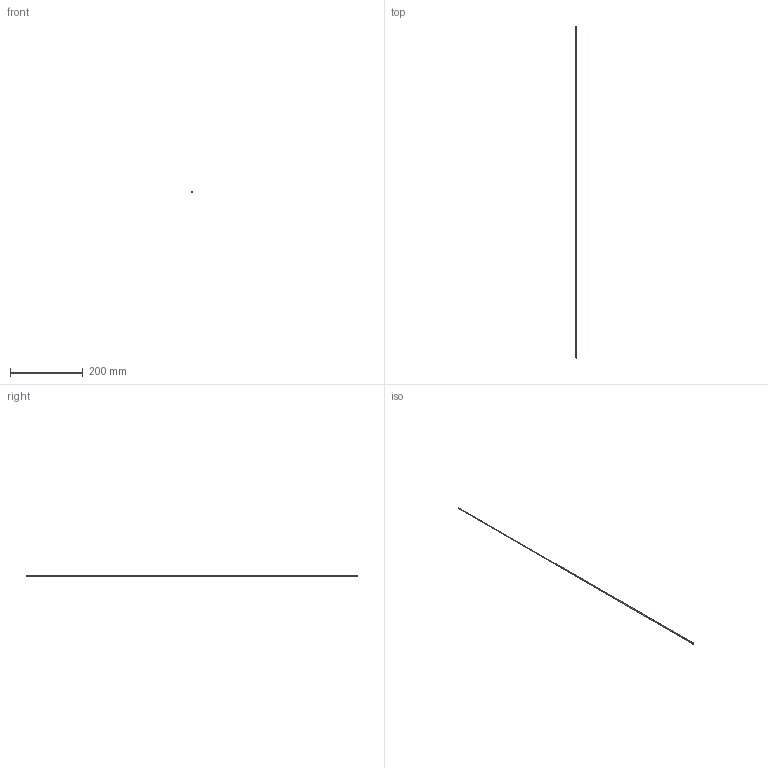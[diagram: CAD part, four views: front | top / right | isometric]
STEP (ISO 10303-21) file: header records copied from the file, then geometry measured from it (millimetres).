
FILE_DESCRIPTION(/* description */ (''),/* implementation_level */ '2;1');
FILE_NAME(/* name */ 'C:/Users/drich/Desktop/JHF090T-36 v1.step',/* time_stamp */ '2020-01-02T20:06:41-06:00',/* author */ (''),/* organization */ (''),/* preprocessor_version */ 'ST-DEVELOPER v18',/* originating_system */ 'Autodesk Translation Framework v8.12.0.6',/* authorisation */ '');
FILE_SCHEMA (('AUTOMOTIVE_DESIGN { 1 0 10303 214 3 1 1 }'));
Length unit declared in the file: inch
Products named in the file (1): JHF090T-36
Bounding box: 4.8 x 914.4 x 4.8 mm (x, y, z)
Volume: 1145.4 mm3; surface area: 12176.3 mm2
Topology: 1 solids, 1 shells, 10 faces, 25 edges, 19 vertices
Faces by surface type: cylinder 4, plane 4, cone 1, torus 1
Full cylindrical faces by diameter (mm): 1.93 x1, 2.286 x1, 4.75 x1, 4.801 x1
Entity records: 364 total; most frequent: DIRECTION 67, CARTESIAN_POINT 55, ORIENTED_EDGE 50, AXIS2_PLACEMENT_3D 31, EDGE_CURVE 25, CIRCLE 20, VERTEX_POINT 19, EDGE_LOOP 14
